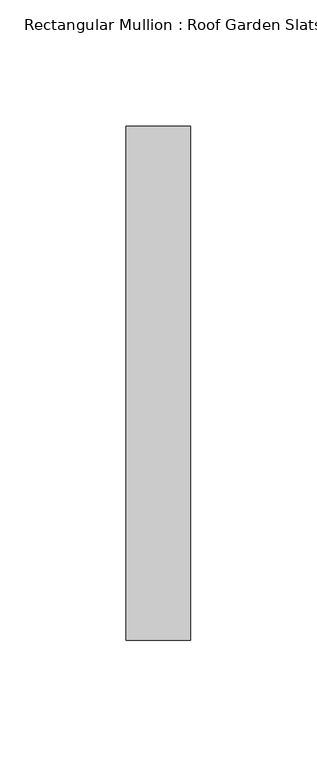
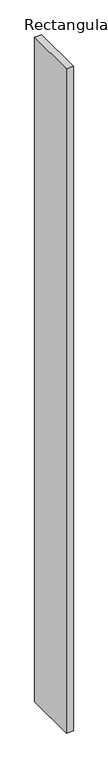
"""IFC4 building model written with IfcOpenShell, lengths in millimetres: member geometry, Rectangular Mullion : Roof Garden Slats."""

import ifcopenshell
import ifcopenshell.guid

model = None  # the IFC model being written
_history = None  # IfcOwnerHistory: only IFC2X3 demands one
_inside = {}  # id of a spatial element -> (the spatial element, [elements in it])
_under = {}  # id of a project, library or spatial element -> (it, [spatial elements below it])
_declared = {}  # id of a project -> (the project, [libraries it declares])
_typed = {}  # id of a type object -> (the type object, [elements of that type])
_made_of = {}  # id of a material, layer set ... -> (it, [elements and type objects made of it])


def new_model(schema):
    """Start an empty IFC model of exactly this schema.

    Asked for "IFC4X3", IfcOpenShell would pick the latest addendum, in which some entities
    have other attributes; the version numbers below select the first issue.
    IFC2X3 requires an IfcOwnerHistory on every rooted entity: one is made here for all.
    """
    global model, _history
    if schema == "IFC4X3":
        model = ifcopenshell.file(schema_version=(4, 3, 0, 0))
    else:
        model = ifcopenshell.file(schema=schema)
    _inside.clear()
    _under.clear()
    _declared.clear()
    _typed.clear()
    _made_of.clear()
    _history = None
    if model.schema == "IFC2X3":
        org = make("IfcOrganization", Name="unknown")
        user = make(
            "IfcPersonAndOrganization",
            ThePerson=make("IfcPerson", FamilyName="unknown"),
            TheOrganization=org,
        )
        app = make(
            "IfcApplication",
            ApplicationDeveloper=org,
            Version="unknown",
            ApplicationFullName="unknown",
            ApplicationIdentifier="unknown",
        )
        _history = make(
            "IfcOwnerHistory",
            OwningUser=user,
            OwningApplication=app,
            ChangeAction="ADDED",
            CreationDate=0,
        )
    return model


def make(cls, **values):
    """One entity of the class cls with the attributes given. An attribute that is None is left unset."""
    return model.create_entity(
        cls, **{name: value for name, value in values.items() if value is not None}
    )


def rooted(cls, **values):
    """An entity with a GlobalId (a new one), such as an element, a storey or a relation."""
    return make(cls, GlobalId=ifcopenshell.guid.new(), OwnerHistory=_history, **values)


def si_unit(unit_type, name, prefix=None):
    """IfcSIUnit, for example si_unit("LENGTHUNIT", "METRE", prefix="MILLI")."""
    return make("IfcSIUnit", UnitType=unit_type, Prefix=prefix, Name=name)


def assignment(units):
    """IfcUnitAssignment: the units of a project."""
    return None if units is None else make("IfcUnitAssignment", Units=units)


def point(xyz):
    """IfcCartesianPoint."""
    return None if xyz is None else make("IfcCartesianPoint", Coordinates=xyz)


def direction(xyz):
    """IfcDirection."""
    return None if xyz is None else make("IfcDirection", DirectionRatios=xyz)


def frame(location, z_axis=None, x_axis=None):
    """IfcAxis2Placement3D, a coordinate frame: its origin and axes. An axis left out is left unset."""
    return make(
        "IfcAxis2Placement3D",
        Location=point(location),
        Axis=direction(z_axis),
        RefDirection=direction(x_axis),
    )


def origin():
    """The frame at (0, 0, 0) with its axes left unset."""
    return frame((0.0, 0.0, 0.0))


def place(relative_to, where):
    """IfcLocalPlacement: puts the frame where relative to a parent placement (None: the world)."""
    return make(
        "IfcLocalPlacement", PlacementRelTo=relative_to, RelativePlacement=where
    )


def context(
    kind, dimensions, precision=None, world=None, true_north=None, identifier=None
):
    """IfcGeometricRepresentationContext, for example the 3D "Model" context."""
    return make(
        "IfcGeometricRepresentationContext",
        ContextIdentifier=identifier,
        ContextType=kind,
        CoordinateSpaceDimension=dimensions,
        Precision=precision,
        WorldCoordinateSystem=world,
        TrueNorth=true_north,
    )


def project(units=None, contexts=None):
    """IfcProject with its units and contexts."""
    return rooted(
        "IfcProject",
        Name="project",
        RepresentationContexts=contexts,
        UnitsInContext=assignment(units),
    )


def spatial(cls, under=None, at=None, **own):
    """A site, building, storey or space (cls), placed at a placement, below another one or the project."""
    s = rooted(cls, ObjectPlacement=at, **own)
    if under is not None:
        _under.setdefault(under.id(), (under, []))[1].append(s)
    return s


def polyline(points):
    """IfcPolyline through the points."""
    return make("IfcPolyline", Points=[point(p) for p in points])


def outline(outer, holes=None, kind="AREA"):
    """IfcArbitraryClosedProfileDef: a profile drawn as a closed curve; with holes, ...WithVoids."""
    if holes is None:
        return make("IfcArbitraryClosedProfileDef", ProfileType=kind, OuterCurve=outer)
    return make(
        "IfcArbitraryProfileDefWithVoids",
        ProfileType=kind,
        OuterCurve=outer,
        InnerCurves=holes,
    )


def extrude(swept, where, along, depth):
    """IfcExtrudedAreaSolid: the profile swept, set in the frame where, extruded along a direction by depth."""
    return make(
        "IfcExtrudedAreaSolid",
        SweptArea=swept,
        Position=where,
        ExtrudedDirection=direction(along),
        Depth=depth,
    )


def shape(context_of_items, identifier, shape_type, items):
    """IfcShapeRepresentation: the items that make up one representation, for example the "Body"."""
    return make(
        "IfcShapeRepresentation",
        ContextOfItems=context_of_items,
        RepresentationIdentifier=identifier,
        RepresentationType=shape_type,
        Items=items,
    )


def source(mapping_origin, context_of_items, identifier, shape_type, items):
    """IfcRepresentationMap: a shape defined once, which mapped items show again and again."""
    return make(
        "IfcRepresentationMap",
        MappingOrigin=mapping_origin,
        MappedRepresentation=shape(context_of_items, identifier, shape_type, items),
    )


def transform(
    local_origin,
    x_axis=None,
    y_axis=None,
    z_axis=None,
    scale=None,
    scale2=None,
    scale3=None,
    uniform=True,
):
    """IfcCartesianTransformationOperator3D, or its non-uniform kind. x_axis, y_axis, z_axis: its Axis1, 2, 3."""
    if uniform:
        return make(
            "IfcCartesianTransformationOperator3D",
            Axis1=direction(x_axis),
            Axis2=direction(y_axis),
            LocalOrigin=point(local_origin),
            Scale=scale,
            Axis3=direction(z_axis),
        )
    return make(
        "IfcCartesianTransformationOperator3DnonUniform",
        Axis1=direction(x_axis),
        Axis2=direction(y_axis),
        LocalOrigin=point(local_origin),
        Scale=scale,
        Axis3=direction(z_axis),
        Scale2=scale2,
        Scale3=scale3,
    )


def mapped(mapping_source, mapping_target):
    """IfcMappedItem: shows the shape of a source again, moved by a transform."""
    return make(
        "IfcMappedItem", MappingSource=mapping_source, MappingTarget=mapping_target
    )


def made_of(thing, what):
    """Note that an element or type object is made of a material, layer set ...; save() writes the relation."""
    if what is not None:
        _made_of.setdefault(what.id(), (what, []))[1].append(thing)
    return thing


def element(
    cls,
    number,
    at=None,
    inside=None,
    cuts=None,
    type_object=None,
    material=None,
    context=None,
    identifier="Body",
    shape_type=None,
    held_by="IfcProductDefinitionShape",
    body=None,
    shapes=None,
    **own,
):
    """One element of the class cls, such as IfcWall. Its Tag is "e" and its number.

    at: its placement. inside: the storey or other place that contains it. cuts: it is an
    opening in that element (IfcRelVoidsElement). A single representation is given by context,
    identifier, shape_type and body (its items); several are given by shapes. held_by: the class
    of the entity that holds the representations. save() writes the other relations.
    """
    e = rooted(cls, Tag="e%d" % number, ObjectPlacement=at, **own)
    if body is not None:
        shapes = [shape(context, identifier, shape_type, body)]
    if shapes is not None:
        e.Representation = make(held_by, Representations=shapes)
    if inside is not None:
        _inside.setdefault(inside.id(), (inside, []))[1].append(e)
    if cuts is not None:
        rooted(
            "IfcRelVoidsElement", RelatingBuildingElement=cuts, RelatedOpeningElement=e
        )
    if type_object is not None:
        _typed.setdefault(type_object.id(), (type_object, []))[1].append(e)
    return made_of(e, material)


def aggregate(whole, parts):
    """IfcRelAggregates: a whole, such as a stair, and the parts it consists of."""
    return rooted("IfcRelAggregates", RelatingObject=whole, RelatedObjects=parts)


def save(model, path):
    """Write the relations noted so far, then the file.

    IfcRelAggregates (storeys below a building ...), IfcRelContainedInSpatialStructure (elements
    in a storey), IfcRelDefinesByType, IfcRelAssociatesMaterial and IfcRelDeclares: one each for
    every whole, place, type object, material and project.
    """
    for whole, parts in _under.values():
        aggregate(whole, parts)
    for where, things in _inside.values():
        rooted(
            "IfcRelContainedInSpatialStructure",
            RelatedElements=things,
            RelatingStructure=where,
        )
    for kind, things in _typed.values():
        rooted("IfcRelDefinesByType", RelatedObjects=things, RelatingType=kind)
    for what, things in _made_of.values():
        rooted("IfcRelAssociatesMaterial", RelatedObjects=things, RelatingMaterial=what)
    for by, libraries in _declared.values():
        rooted("IfcRelDeclares", RelatingContext=by, RelatedDefinitions=libraries)
    model.write(path)


def rectangular_mullion_roof_garden_slats_ae390b1d(model_context):
    return source(origin(), model_context, "Body", "SweptSolid", [
        extrude(outline(polyline([(0.0, 139.7), (0.0, -63.5), (-25.4, -63.5), (-25.4, 139.7), (0.0, 139.7)])), frame((0.0, 0.0, -2593.6276213), z_axis=(0.0, 0.0, 1.0), x_axis=(1.0, 0.0, 0.0)), (0.0, 0.0, 1.0), 2593.6276213),
    ])


if __name__ == "__main__":
    model = new_model("IFC4")
    model_context = context("Model", 3, world=origin())
    ifc_project = project(units=[si_unit("LENGTHUNIT", "METRE", prefix="MILLI")], contexts=[model_context])
    site = spatial("IfcSite", under=ifc_project)
    building = spatial("IfcBuilding", under=site)
    placement = place(None, origin())
    rectangular_mullion_roof_garden_slats_shape = rectangular_mullion_roof_garden_slats_ae390b1d(model_context)
    element("IfcMember", 1, ObjectType="Rectangular Mullion : Roof Garden Slats", at=placement, inside=building, context=model_context, shape_type="MappedRepresentation", body=[
        mapped(rectangular_mullion_roof_garden_slats_shape, transform((0.0, 0.0, 0.0), x_axis=(1.0, 0.0, 0.0), y_axis=(0.0, 1.0, 0.0), z_axis=(0.0, 0.0, 1.0))),
    ])
    save(model, "model.ifc")
